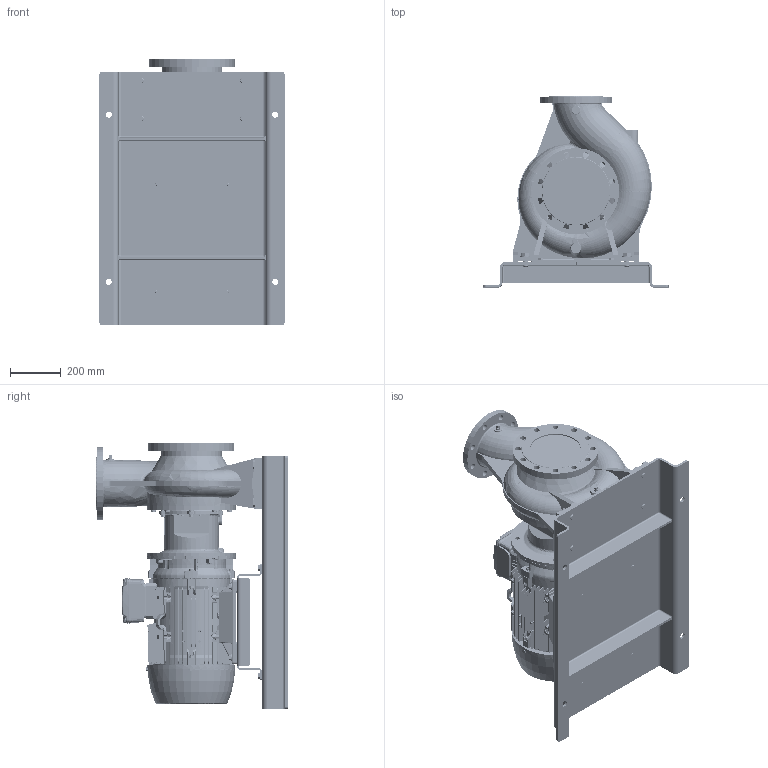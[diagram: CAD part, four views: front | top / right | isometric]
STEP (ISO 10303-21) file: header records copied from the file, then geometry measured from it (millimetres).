
FILE_DESCRIPTION (( 'STEP AP214' ), '1' );
FILE_NAME ('GSD4 150-250_18.5 & 22_(180ML)_W21_BP.STEP', '2026-05-08T01:11:34', ( '' ), ( '' ), 'SwSTEP 2.0', 'SolidWorks 2024', '' );
FILE_SCHEMA (( 'AUTOMOTIVE_DESIGN' ));
Length unit declared in the file: millimetre
Products named in the file (13): 180M_L ALIE3_W21T_B35; CGS11-5264; Parametric bolt and washer_SFT-A305B; 150-250-180M_L_ﾃﾞﾌｫﾙﾄ; Parametric bolt and washer_SFT-A403B; Parametric bolt and washer_SFT-A297B; Parametric bolt_SFT-A297B; Parametric bolt_SFT-A305B; Parametric Flat Washer_M20; Parametric Flat Washer_M12; Parametric bolt_SFT-A403B; GSD4 150-250_18.5 & 22_(180ML)_W21_BP; N9S5 GSDA-953 F1-1832967-00
Assembly tree (22 placements, depth 3):
  GSD4 150-250_18.5 & 22_(180ML)_W21_BP
    150-250-180M_L_ﾃﾞﾌｫﾙﾄ
    N9S5 GSDA-953 F1-1832967-00
    CGS11-5264
    Parametric bolt and washer_SFT-A403B  x4
      Parametric bolt_SFT-A403B
      Parametric Flat Washer_M20
    Parametric bolt and washer_SFT-A297B  x4
      Parametric bolt_SFT-A297B
      Parametric Flat Washer_M12
    Parametric bolt and washer_SFT-A305B  x4
      Parametric bolt_SFT-A305B
      Parametric Flat Washer_M12
    180M_L ALIE3_W21T_B35
Bounding box: 730 x 755 x 1050 mm (x, y, z)
Volume: 60746161.6 mm3; surface area: 6548732 mm2
Topology: 62 solids, 63 shells, 6760 faces, 17508 edges, 11330 vertices
Faces by surface type: plane 3939, cylinder 1427, cone 631, bspline 468, torus 279, sphere 16
Entity records: 254504 total; most frequent: CARTESIAN_POINT 109160, ORIENTED_EDGE 31902, DIRECTION 27112, EDGE_CURVE 15951, VERTEX_POINT 10325, LINE 9982, VECTOR 9982, AXIS2_PLACEMENT_3D 8565
